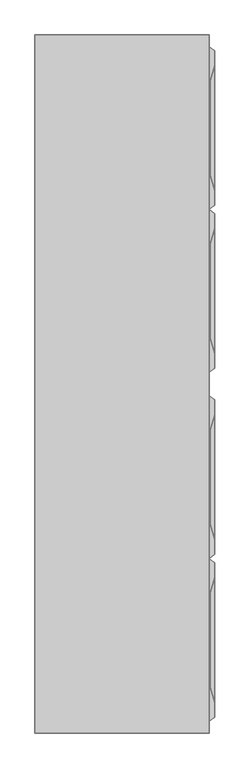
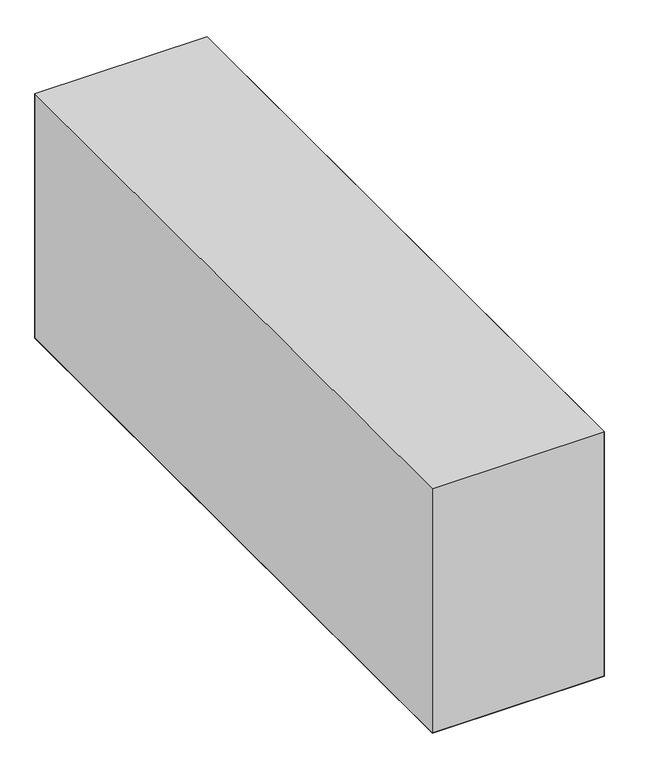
"""IFC4 building model written with IfcOpenShell, lengths in millimetres: furniture geometry, Wall Cabinet 4 Door 48x12x18鞋櫃4門L122xW30xH46 : Wall Cabinet 4 Door 48x12x18鞋櫃4門L122xW30xH46."""

from ifc_helpers import new_model, si_unit, origin, place, context, project, spatial, triangles, source, transform, mapped, element, save


def furniture_8f68121f(model_context):
    return source(origin(), model_context, "Body", "Tessellation", [
        triangles([(314.4926497, 492.0691289, 423.3366963), (314.4926497, 537.0575892, 423.3366963), (304.8, 541.8856376, 431.8101617), (304.8, 447.0562514, 431.8101617), (314.4926497, 447.0806685, 423.3366963), (304.8, 494.4831531, 431.8101617), (314.4926497, 312.0907977, 423.3366963), (304.8, 352.2512824, 431.8101617), (314.4926497, 357.1036752, 423.3366963), (304.8, 399.6537669, 431.8101617), (314.4926497, 402.0921719, 423.3366963), (314.4926497, 402.0921719, 33.8023222), (304.8, 447.0562514, 25.3898406), (304.8, 494.4831531, 25.3898406), (314.4926497, 492.0691289, 33.8023222), (314.4926497, 447.0806685, 33.8023222), (314.4926497, 312.0907977, 33.8023222), (314.4926497, 357.1036752, 33.8023222), (304.8, 352.2512824, 25.3898406), (304.8, 399.6537669, 25.3898406), (314.4926497, 582.0460496, 423.3366963), (304.8, 589.2881221, 431.8101617), (314.4926497, 537.0575892, 33.8023222), (304.8, 541.8856376, 25.3898406), (304.8, 589.2881221, 25.3898406), (314.4926497, 582.0460496, 33.8023222), (304.8, 257.3975155, 25.3898406), (304.8, 304.8, 25.3898406), (314.4926497, 297.5579457, 33.8023222), (314.4926497, 207.5809886, 33.8023222), (314.4926497, 252.5694672, 33.8023222), (304.8, 209.9950128, 25.3898406), (314.4926497, 162.5925101, 33.8023222), (304.8, 115.1656358, 25.3898406), (304.8, 162.5681293, 25.3898406), (314.4926497, 117.6040407, 33.8023222), (304.8, 67.7631376, 25.3898406), (314.4926497, 27.602687, 33.8023222), (304.8, 20.3362564, 25.3898406), (314.4926497, 72.6155531, 33.8023222), (314.4926497, 297.5579457, 423.3366963), (304.8, 304.8, 431.8101617), (304.8, 209.9950128, 431.8101617), (314.4926497, 252.5694672, 423.3366963), (304.8, 257.3975155, 431.8101617), (304.8, 162.5681293, 431.8101617), (314.4926497, 207.5809886, 423.3366963), (304.8, 115.1656358, 431.8101617), (314.4926497, 117.6040407, 423.3366963), (314.4926497, 162.5925101, 423.3366963), (304.8, 67.7631376, 431.8101617), (304.8, 20.3362564, 431.8101617), (314.4926497, 27.602687, 423.3366963), (314.4926497, 72.6155531, 423.3366963), (314.4926497, 1101.6690926, 423.3366963), (314.4926497, 1146.6576256, 423.3366963), (304.8, 1151.4856012, 431.8101617), (304.8, 1104.0831167, 431.8101617), (304.8, 1009.2538033, 431.8101617), (304.8, 1056.6562151, 431.8101617), (314.4926497, 1056.6806322, 423.3366963), (304.8, 961.8512461, 431.8101617), (314.4926497, 921.690834, 423.3366963), (314.4926497, 966.7037115, 423.3366963), (314.4926497, 1011.6920992, 423.3366963), (314.4926497, 1101.6690926, 33.8023222), (304.8, 1104.0831167, 25.3898406), (314.4926497, 1146.6576256, 33.8023222), (304.8, 1009.2538033, 25.3898406), (304.8, 1056.6562151, 25.3898406), (314.4926497, 1056.6806322, 33.8023222), (304.8, 961.8512461, 25.3898406), (314.4926497, 921.690834, 33.8023222), (314.4926497, 966.7037115, 33.8023222), (314.4926497, 1011.6920992, 33.8023222), (314.4926497, 1191.6460859, 423.3366963), (304.8, 1198.8881584, 431.8101617), (304.8, 1151.4856012, 25.3898406), (304.8, 1198.8881584, 25.3898406), (314.4926497, 1191.6460859, 33.8023222), (314.4926497, 862.1694672, 33.8023222), (314.4926497, 907.1580002, 33.8023222), (304.8, 914.4, 25.3898406), (304.8, 866.9974428, 25.3898406), (314.4926497, 817.1810068, 33.8023222), (304.8, 772.1681293, 25.3898406), (304.8, 819.595031, 25.3898406), (304.8, 724.7656448, 25.3898406), (314.4926497, 772.1924738, 33.8023222), (314.4926497, 682.2155531, 33.8023222), (314.4926497, 727.2040134, 33.8023222), (304.8, 629.9362587, 25.3898406), (304.8, 677.3630877, 25.3898406), (314.4926497, 637.2026756, 33.8023222), (304.8, 866.9974428, 431.8101617), (314.4926497, 862.1694672, 423.3366963), (314.4926497, 907.1580002, 423.3366963), (304.8, 914.4, 431.8101617), (304.8, 819.595031, 431.8101617), (314.4926497, 772.1924738, 423.3366963), (314.4926497, 817.1810068, 423.3366963), (304.8, 724.7656448, 431.8101617), (314.4926497, 727.2040134, 423.3366963), (304.8, 772.1681293, 431.8101617), (314.4926497, 682.2155531, 423.3366963), (304.8, 677.3630877, 431.8101617), (304.8, 629.9362587, 431.8101617), (314.4926497, 637.2026756, 423.3366963)], [[1, 2, 6], [3, 6, 2], [11, 4, 10], [5, 4, 11], [5, 1, 4], [6, 4, 1], [7, 8, 42], [9, 8, 7], [9, 10, 8], [11, 10, 9], [24, 14, 15], [15, 23, 24], [16, 20, 12], [16, 13, 20], [14, 13, 16], [16, 15, 14], [19, 28, 17], [17, 18, 19], [20, 19, 18], [18, 12, 20], [2, 21, 3], [22, 3, 21], [26, 24, 23], [26, 25, 24], [29, 27, 31], [29, 28, 27], [27, 32, 30], [30, 31, 27], [30, 35, 33], [30, 32, 35], [33, 34, 36], [33, 35, 34], [36, 37, 40], [36, 34, 37], [37, 39, 38], [38, 40, 37], [44, 42, 45], [41, 42, 44], [47, 45, 43], [44, 45, 47], [50, 43, 46], [47, 43, 50], [49, 50, 48], [46, 48, 50], [54, 48, 51], [49, 48, 54], [53, 54, 52], [51, 52, 54], [55, 56, 58], [57, 58, 56], [65, 60, 59], [61, 60, 65], [61, 58, 60], [55, 58, 61], [63, 62, 98], [64, 62, 63], [64, 59, 62], [65, 59, 64], [68, 67, 66], [68, 78, 67], [70, 69, 75], [75, 71, 70], [67, 70, 71], [71, 66, 67], [72, 83, 73], [73, 74, 72], [75, 72, 74], [75, 69, 72], [56, 76, 57], [77, 57, 76], [80, 78, 68], [80, 79, 78], [82, 84, 81], [82, 83, 84], [84, 87, 85], [85, 81, 84], [85, 86, 89], [85, 87, 86], [89, 88, 91], [89, 86, 88], [91, 93, 90], [91, 88, 93], [93, 92, 94], [94, 90, 93], [96, 98, 95], [97, 98, 96], [101, 96, 99], [95, 99, 96], [100, 99, 104], [101, 99, 100], [103, 100, 102], [104, 102, 100], [105, 103, 106], [102, 106, 103], [108, 106, 107], [105, 106, 108]], closed=False),
        triangles([(306.5068726, 529.5473282, 329.2449832), (306.5068726, 529.4741858, 85.4354374), (314.4926497, 556.3453654, 349.2398383), (306.5068726, 364.6627341, 85.4354374), (306.5068726, 392.9969058, 340.3396912), (306.5068726, 392.1191251, 85.4354374), (306.5068726, 419.5998605, 85.4354374), (306.5068726, 417.478442, 360.9441384), (306.5068726, 447.0562514, 367.5583423), (306.5068726, 447.0562514, 85.4354374), (306.5068726, 474.5370232, 85.4354374), (306.5068726, 476.6340245, 360.9441384), (306.5068726, 502.0177949, 85.4354374), (306.5068726, 501.1399415, 340.3396912), (306.5068726, 364.5651747, 329.2449832), (314.4926497, 337.7671738, 349.2398383), (314.4926497, 337.8159353, 63.6727169), (304.8, 304.8243808, 431.8101617), (304.8, 304.8243808, 25.3898406), (314.4926497, 312.0664533, 33.8023222), (314.4926497, 312.0664533, 423.3366963), (314.4926497, 556.3209483, 63.6727169), (314.4926497, 582.0460496, 33.8023222), (314.4926497, 582.0460496, 423.3366963), (314.4926497, 27.5783039, 423.3366963), (304.8, 20.3362564, 431.8101617), (304.8, 20.3362564, 25.3898406), (314.4926497, 53.2790381, 349.2398383), (314.4926497, 27.5783039, 33.8023222), (306.5068726, 80.1745939, 85.4354374), (314.4926497, 53.3278087, 63.6727169), (314.4926497, 297.5579457, 33.8023222), (314.4926497, 297.5579457, 423.3366963), (314.4926497, 271.8572252, 349.2398383), (306.5068726, 245.0591879, 329.2449832), (306.5068726, 244.9860456, 85.4354374), (314.4926497, 271.8328262, 63.6727169), (306.5068726, 216.6518376, 340.3396912), (306.5068726, 192.1459206, 360.9441384), (306.5068726, 190.0489011, 85.4354374), (306.5068726, 217.5296728, 85.4354374), (306.5068726, 162.5681293, 85.4354374), (306.5068726, 162.5681293, 367.5583423), (306.5068726, 132.990329, 360.9441384), (306.5068726, 135.1117384, 85.4354374), (306.5068726, 108.5087928, 340.3396912), (306.5068726, 80.0770617, 329.2449832), (306.5068726, 107.6309757, 85.4354374), (306.5068726, 1139.0741495, 85.4354374), (314.4926497, 1165.9209846, 63.6727169), (306.5068726, 1001.7190887, 85.4354374), (306.5068726, 1027.0785147, 360.9441384), (306.5068726, 1002.5969421, 340.3396912), (306.5068726, 1029.1998968, 85.4354374), (306.5068726, 1056.6562151, 367.5583423), (306.5068726, 1056.6562151, 85.4354374), (306.5068726, 1084.1370232, 85.4354374), (306.5068726, 1086.2340609, 360.9441384), (306.5068726, 1111.6178312, 85.4354374), (306.5068726, 1110.7399778, 340.3396912), (306.5068726, 1139.1473282, 329.2449832), (306.5068726, 974.1651747, 329.2449832), (306.5068726, 974.2626978, 85.4354374), (314.4926497, 947.3671738, 349.2398383), (314.4926497, 947.4159353, 63.6727169), (314.4926497, 921.6664169, 33.8023222), (304.8, 914.4244171, 25.3898406), (304.8, 914.4244171, 431.8101617), (314.4926497, 921.6664169, 423.3366963), (314.4926497, 1165.9453291, 349.2398383), (314.4926497, 1191.6460859, 33.8023222), (314.4926497, 1191.6460859, 423.3366963), (314.4926497, 637.1783312, 33.8023222), (304.8, 629.9362587, 25.3898406), (304.8, 629.9362587, 431.8101617), (314.4926497, 637.1783312, 423.3366963), (314.4926497, 662.879088, 349.2398383), (306.5068726, 689.774612, 85.4354374), (314.4926497, 662.9277769, 63.6727169), (314.4926497, 881.4572433, 349.2398383), (314.4926497, 907.1580002, 33.8023222), (314.4926497, 907.1580002, 423.3366963), (306.5068726, 854.6591698, 329.2449832), (314.4926497, 881.4328262, 63.6727169), (306.5068726, 854.5859911, 85.4354374), (306.5068726, 826.2518194, 340.3396912), (306.5068726, 827.1296728, 85.4354374), (306.5068726, 801.7459024, 360.9441384), (306.5068726, 799.6489374, 85.4354374), (306.5068726, 772.1681293, 367.5583423), (306.5068726, 772.1681293, 85.4354374), (306.5068726, 744.7117384, 85.4354374), (306.5068726, 742.5903563, 360.9441384), (306.5068726, 718.1087837, 340.3396912), (306.5068726, 689.6770163, 329.2449832), (306.5068726, 717.231003, 85.4354374)], [[2, 3, 1], [22, 3, 2], [4, 6, 15], [5, 15, 6], [6, 7, 5], [8, 5, 7], [7, 10, 8], [9, 8, 10], [10, 11, 9], [12, 9, 11], [11, 13, 12], [14, 12, 13], [13, 2, 14], [1, 14, 2], [16, 4, 15], [16, 17, 4], [18, 20, 21], [18, 19, 20], [20, 17, 16], [16, 21, 20], [22, 23, 3], [24, 3, 23], [26, 29, 25], [26, 27, 29], [29, 31, 28], [28, 25, 29], [28, 30, 47], [28, 31, 30], [37, 32, 34], [33, 34, 32], [36, 34, 35], [37, 34, 36], [41, 36, 38], [35, 38, 36], [40, 41, 39], [38, 39, 41], [42, 40, 43], [39, 43, 40], [45, 42, 44], [43, 44, 42], [48, 45, 46], [44, 46, 45], [30, 48, 47], [46, 47, 48], [49, 70, 61], [50, 70, 49], [63, 51, 62], [53, 62, 51], [51, 54, 53], [52, 53, 54], [54, 56, 52], [55, 52, 56], [56, 57, 55], [58, 55, 57], [57, 59, 58], [60, 58, 59], [59, 49, 60], [61, 60, 49], [64, 63, 62], [64, 65, 63], [67, 66, 69], [69, 68, 67], [66, 65, 64], [64, 69, 66], [50, 71, 70], [72, 70, 71], [74, 73, 76], [76, 75, 74], [73, 79, 77], [77, 76, 73], [77, 78, 95], [77, 79, 78], [84, 81, 80], [82, 80, 81], [85, 80, 83], [84, 80, 85], [87, 85, 86], [83, 86, 85], [89, 87, 88], [86, 88, 87], [91, 89, 90], [88, 90, 89], [92, 91, 93], [90, 93, 91], [96, 92, 94], [93, 94, 92], [78, 96, 95], [94, 95, 96]], closed=False),
        triangles([(314.4926497, 582.0460496, 423.3366963), (314.4926497, 582.0460496, 33.8023222), (304.8, 589.2881221, 431.8101617), (304.8, 589.2881221, 25.3898406), (314.4926497, 297.5579457, 423.3366963), (314.4926497, 297.5579457, 33.8023222), (304.8, 304.8, 25.3898406), (304.8, 304.8, 431.8101617), (314.4926497, 1191.6460859, 33.8023222), (304.8, 1198.8881584, 25.3898406), (304.8, 1198.8881584, 431.8101617), (314.4926497, 1191.6460859, 423.3366963), (314.4926497, 907.1580002, 423.3366963), (314.4926497, 907.1580002, 33.8023222), (304.8, 914.4, 25.3898406), (304.8, 914.4, 431.8101617)], [[2, 3, 1], [4, 3, 2], [6, 7, 5], [8, 5, 7], [9, 10, 12], [11, 12, 10], [14, 15, 13], [16, 13, 15]], closed=False),
        triangles([(306.5068726, 529.5473282, 329.2449832), (314.4926497, 556.3453654, 349.2398383), (314.4926497, 485.5829696, 385.0538587), (306.5068726, 447.0562514, 367.5583423), (306.5068726, 476.6340245, 360.9441384), (306.5068726, 501.1399415, 340.3396912), (314.4926497, 518.111253, 359.5115951), (314.4926497, 408.5295333, 385.0538587), (314.4926497, 447.0562514, 393.6491916), (314.4926497, 447.0806685, 423.3366963), (314.4926497, 492.0691289, 423.3366963), (314.4926497, 582.0460496, 423.3366963), (314.4926497, 537.0575892, 423.3366963), (314.4926497, 337.742793, 349.2398383), (314.4926497, 375.9769054, 359.5115951), (306.5068726, 364.5651747, 329.2449832), (314.4926497, 312.0907977, 423.3366963), (314.4926497, 402.0921719, 423.3366963), (314.4926497, 357.1036752, 423.3366963), (306.5068726, 392.9969058, 340.3396912), (306.5068726, 417.478442, 360.9441384), (306.5068726, 529.4741858, 85.4354374), (306.5068726, 474.5370232, 85.4354374), (306.5068726, 447.0562514, 85.4354374), (314.4926497, 519.8912679, 63.6727169), (306.5068726, 502.0177949, 85.4354374), (314.4926497, 492.0691289, 33.8023222), (314.4926497, 537.0575892, 33.8023222), (314.4926497, 447.0806685, 33.8023222), (314.4926497, 483.4615874, 63.6727169), (314.4926497, 447.0318707, 63.6727169), (314.4926497, 582.0460496, 33.8023222), (314.4926497, 556.3209483, 63.6727169), (306.5068726, 364.6627341, 85.4354374), (314.4926497, 337.742793, 63.6727169), (306.5068726, 392.1191251, 85.4354374), (314.4926497, 312.0907977, 33.8023222), (314.4926497, 410.6021539, 63.6727169), (306.5068726, 419.5998605, 85.4354374), (314.4926497, 374.1724734, 63.6727169), (314.4926497, 357.1036752, 33.8023222), (314.4926497, 402.0921719, 33.8023222), (314.4926497, 252.5694672, 33.8023222), (314.4926497, 297.5579457, 33.8023222), (314.4926497, 271.8328262, 63.6727169), (314.4926497, 162.5925101, 33.8023222), (314.4926497, 207.5809886, 33.8023222), (314.4926497, 162.5437486, 63.6727169), (314.4926497, 117.6040407, 33.8023222), (314.4926497, 89.6843513, 63.6727169), (314.4926497, 126.1140409, 63.6727169), (314.4926497, 27.602687, 33.8023222), (314.4926497, 72.6155531, 33.8023222), (306.5068726, 217.5296728, 85.4354374), (314.4926497, 235.4031458, 63.6727169), (306.5068726, 244.9860456, 85.4354374), (306.5068726, 190.0489011, 85.4354374), (314.4926497, 198.9734472, 63.6727169), (306.5068726, 162.5681293, 85.4354374), (306.5068726, 135.1117384, 85.4354374), (306.5068726, 80.1745939, 85.4354374), (314.4926497, 53.2546573, 63.6727169), (306.5068726, 107.6309757, 85.4354374), (306.5068726, 216.6518376, 340.3396912), (306.5068726, 245.0591879, 329.2449832), (314.4926497, 233.6230946, 359.5115951), (306.5068726, 192.1459206, 360.9441384), (314.4926497, 201.0948475, 385.0538587), (314.4926497, 124.0414112, 385.0538587), (306.5068726, 162.5681293, 367.5583423), (306.5068726, 132.990329, 360.9441384), (314.4926497, 91.4887652, 359.5115951), (314.4926497, 53.2546573, 349.2398383), (306.5068726, 80.0770617, 329.2449832), (306.5068726, 108.5087928, 340.3396912), (314.4926497, 252.5694672, 423.3366963), (314.4926497, 271.8572252, 349.2398383), (314.4926497, 297.5579457, 423.3366963), (314.4926497, 207.5809886, 423.3366963), (314.4926497, 162.5925101, 423.3366963), (314.4926497, 117.6040407, 423.3366963), (314.4926497, 162.5681293, 393.6491916), (314.4926497, 72.6155531, 423.3366963), (314.4926497, 27.602687, 423.3366963), (306.5068726, 1110.7399778, 340.3396912), (306.5068726, 1139.1473282, 329.2449832), (306.5068726, 1086.2340609, 360.9441384), (306.5068726, 1027.0785147, 360.9441384), (306.5068726, 1056.6562151, 367.5583423), (314.4926497, 1095.1829332, 385.0538587), (314.4926497, 1011.6920992, 423.3366963), (314.4926497, 1056.6562151, 393.6491916), (314.4926497, 1056.6806322, 423.3366963), (314.4926497, 1101.6690926, 423.3366963), (314.4926497, 1127.7111803, 359.5115951), (314.4926497, 1146.6576256, 423.3366963), (314.4926497, 1165.9453291, 349.2398383), (314.4926497, 1191.6460859, 423.3366963), (314.4926497, 947.3427567, 349.2398383), (306.5068726, 974.1651747, 329.2449832), (314.4926497, 985.5768328, 359.5115951), (314.4926497, 921.690834, 423.3366963), (314.4926497, 966.7037115, 423.3366963), (306.5068726, 1002.5969421, 340.3396912), (314.4926497, 1018.129497, 385.0538587), (306.5068726, 1111.6178312, 85.4354374), (314.4926497, 1129.4912315, 63.6727169), (306.5068726, 1139.0741495, 85.4354374), (306.5068726, 1056.6562151, 85.4354374), (314.4926497, 1056.6319433, 63.6727169), (314.4926497, 1020.2021902, 63.6727169), (306.5068726, 1084.1370232, 85.4354374), (314.4926497, 1101.6690926, 33.8023222), (314.4926497, 1093.0615511, 63.6727169), (314.4926497, 1011.6920992, 33.8023222), (314.4926497, 1056.6806322, 33.8023222), (314.4926497, 1146.6576256, 33.8023222), (314.4926497, 1191.6460859, 33.8023222), (314.4926497, 1165.9209846, 63.6727169), (306.5068726, 974.2626978, 85.4354374), (306.5068726, 1001.7190887, 85.4354374), (314.4926497, 947.3427567, 63.6727169), (314.4926497, 921.690834, 33.8023222), (314.4926497, 966.7037115, 33.8023222), (314.4926497, 983.7725098, 63.6727169), (306.5068726, 1029.1998968, 85.4354374), (314.4926497, 907.1580002, 33.8023222), (314.4926497, 881.4328262, 63.6727169), (314.4926497, 862.1694672, 33.8023222), (314.4926497, 808.5733927, 63.6727169), (314.4926497, 772.1924738, 33.8023222), (314.4926497, 817.1810068, 33.8023222), (314.4926497, 735.7140318, 63.6727169), (314.4926497, 772.1437849, 63.6727169), (314.4926497, 727.2040134, 33.8023222), (314.4926497, 662.8546709, 63.6727169), (314.4926497, 637.2026756, 33.8023222), (314.4926497, 682.2155531, 33.8023222), (314.4926497, 699.2843513, 63.6727169), (306.5068726, 854.5859911, 85.4354374), (314.4926497, 845.0031458, 63.6727169), (306.5068726, 827.1296728, 85.4354374), (306.5068726, 799.6489374, 85.4354374), (306.5068726, 772.1681293, 85.4354374), (306.5068726, 744.7117384, 85.4354374), (306.5068726, 717.231003, 85.4354374), (306.5068726, 689.774612, 85.4354374), (306.5068726, 826.2518194, 340.3396912), (306.5068726, 854.6591698, 329.2449832), (314.4926497, 881.4572433, 349.2398383), (314.4926497, 843.2231672, 359.5115951), (306.5068726, 772.1681293, 367.5583423), (306.5068726, 801.7459024, 360.9441384), (306.5068726, 718.1087837, 340.3396912), (306.5068726, 742.5903563, 360.9441384), (314.4926497, 701.088747, 359.5115951), (306.5068726, 689.6770163, 329.2449832), (314.4926497, 862.1694672, 423.3366963), (314.4926497, 907.1580002, 423.3366963), (314.4926497, 810.6948475, 385.0538587), (314.4926497, 817.1810068, 423.3366963), (314.4926497, 733.6414112, 385.0538587), (314.4926497, 772.1681293, 393.6491916), (314.4926497, 772.1924738, 423.3366963), (314.4926497, 727.2040134, 423.3366963), (314.4926497, 637.2026756, 423.3366963), (314.4926497, 662.8546709, 349.2398383), (314.4926497, 682.2155531, 423.3366963)], [[1, 7, 6], [2, 7, 1], [4, 3, 9], [5, 3, 4], [4, 8, 21], [9, 8, 4], [5, 7, 3], [6, 7, 5], [8, 9, 18], [10, 18, 9], [9, 3, 10], [11, 10, 3], [3, 7, 11], [13, 11, 7], [7, 2, 13], [12, 13, 2], [16, 15, 14], [20, 15, 16], [14, 15, 17], [19, 17, 15], [15, 8, 19], [18, 19, 8], [21, 15, 20], [8, 15, 21], [25, 33, 26], [22, 26, 33], [31, 23, 24], [30, 23, 31], [38, 24, 39], [31, 24, 38], [30, 25, 23], [26, 23, 25], [27, 28, 30], [25, 30, 28], [29, 27, 31], [30, 31, 27], [42, 29, 38], [31, 38, 29], [28, 32, 25], [33, 25, 32], [35, 36, 34], [40, 36, 35], [37, 41, 35], [40, 35, 41], [40, 38, 36], [39, 36, 38], [41, 42, 40], [38, 40, 42], [43, 44, 55], [45, 55, 44], [47, 43, 58], [55, 58, 43], [46, 47, 48], [58, 48, 47], [49, 46, 51], [48, 51, 46], [53, 49, 50], [51, 50, 49], [52, 53, 62], [50, 62, 53], [55, 56, 54], [45, 56, 55], [58, 55, 57], [54, 57, 55], [48, 58, 59], [57, 59, 58], [51, 59, 60], [48, 59, 51], [50, 60, 63], [51, 60, 50], [62, 63, 61], [50, 63, 62], [65, 66, 64], [77, 66, 65], [67, 66, 68], [64, 66, 67], [70, 68, 82], [67, 68, 70], [70, 69, 71], [82, 69, 70], [71, 72, 75], [69, 72, 71], [74, 72, 73], [75, 72, 74], [66, 77, 76], [78, 76, 77], [68, 66, 79], [76, 79, 66], [82, 68, 80], [79, 80, 68], [69, 82, 81], [80, 81, 82], [72, 69, 83], [81, 83, 69], [73, 72, 84], [83, 84, 72], [86, 95, 85], [97, 95, 86], [89, 90, 92], [87, 90, 89], [89, 105, 88], [92, 105, 89], [87, 95, 90], [85, 95, 87], [105, 92, 91], [93, 91, 92], [92, 90, 93], [94, 93, 90], [90, 95, 94], [96, 94, 95], [95, 97, 96], [98, 96, 97], [100, 101, 99], [104, 101, 100], [99, 101, 102], [103, 102, 101], [101, 105, 103], [91, 103, 105], [88, 101, 104], [105, 101, 88], [107, 108, 106], [119, 108, 107], [110, 112, 109], [114, 112, 110], [111, 109, 126], [110, 109, 111], [114, 106, 112], [107, 106, 114], [113, 117, 114], [107, 114, 117], [116, 113, 110], [114, 110, 113], [115, 116, 111], [110, 111, 116], [117, 118, 107], [119, 107, 118], [122, 121, 120], [125, 121, 122], [123, 124, 122], [125, 122, 124], [125, 111, 121], [126, 121, 111], [124, 115, 125], [111, 125, 115], [129, 127, 141], [128, 141, 127], [132, 129, 130], [141, 130, 129], [131, 132, 134], [130, 134, 132], [135, 131, 133], [134, 133, 131], [138, 135, 139], [133, 139, 135], [137, 138, 136], [139, 136, 138], [141, 140, 142], [128, 140, 141], [130, 141, 143], [142, 143, 141], [134, 130, 144], [143, 144, 130], [133, 144, 145], [134, 144, 133], [139, 133, 146], [145, 146, 133], [136, 146, 147], [139, 146, 136], [149, 151, 148], [150, 151, 149], [153, 151, 160], [148, 151, 153], [152, 160, 163], [153, 160, 152], [152, 162, 155], [163, 162, 152], [155, 156, 154], [162, 156, 155], [157, 156, 167], [154, 156, 157], [151, 150, 158], [159, 158, 150], [160, 151, 161], [158, 161, 151], [163, 160, 164], [161, 164, 160], [162, 163, 165], [164, 165, 163], [156, 162, 168], [165, 168, 162], [167, 156, 166], [168, 166, 156]], closed=False),
        triangles([(0.0, 0.0, 0.0), (0.0, 1219.2, 0.0), (304.8, 1219.2, 0.0), (304.8, 0.0, 0.0), (0.0, 1219.2, 457.2), (304.8, 1219.2, 457.2), (304.8, 0.0, 457.2), (0.0, 0.0, 457.2)], [[3, 2, 1], [1, 4, 3], [6, 5, 8], [8, 7, 6]], closed=False),
        triangles([(304.8, 1219.2, 457.2), (304.8, 1219.2, 0.0), (304.8, 0.0, 0.0), (304.8, 0.0, 457.2), (0.0, 1219.2, 457.2), (0.0, 1219.2, 0.0), (0.0, 0.0, 0.0), (0.0, 0.0, 457.2)], [[2, 1, 4], [4, 3, 2], [6, 5, 8], [8, 7, 6]], closed=False),
        triangles([(0.0, 0.0, 457.2), (0.0, 0.0, 0.0), (304.8, 0.0, 0.0), (304.8, 0.0, 457.2), (304.8, 1219.2, 457.2), (304.8, 1219.2, 0.0), (0.0, 1219.2, 0.0), (0.0, 1219.2, 457.2)], [[3, 2, 1], [1, 4, 3], [6, 7, 5], [8, 5, 7]], closed=False),
    ])


if __name__ == "__main__":
    model = new_model("IFC4")
    model_context = context("Model", 3, world=origin())
    ifc_project = project(units=[si_unit("LENGTHUNIT", "METRE", prefix="MILLI")], contexts=[model_context])
    site = spatial("IfcSite", under=ifc_project)
    building = spatial("IfcBuilding", under=site)
    placement = place(None, origin())
    furniture_shape = furniture_8f68121f(model_context)
    element("IfcFurniture", 1, ObjectType="Wall Cabinet 4 Door 48x12x18鞋櫃4門L122xW30xH46 : Wall Cabinet 4 Door 48x12x18鞋櫃4門L122xW30xH46", at=placement, inside=building, context=model_context, shape_type="MappedRepresentation", body=[
        mapped(furniture_shape, transform((0.0, 0.0, 0.0), x_axis=(1.0, 0.0, 0.0), y_axis=(0.0, 1.0, 0.0), z_axis=(0.0, 0.0, 1.0))),
    ])
    save(model, "model.ifc")
